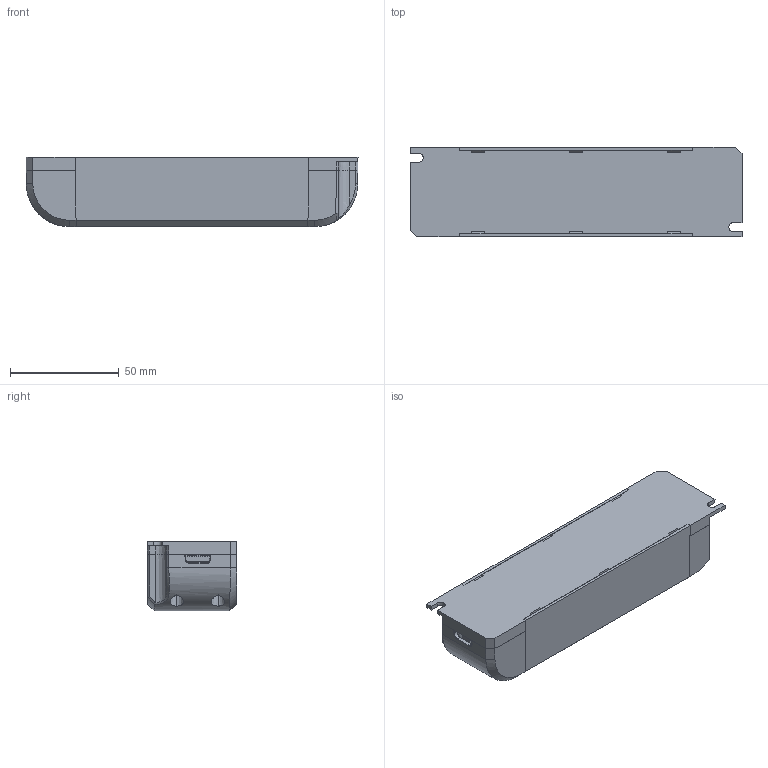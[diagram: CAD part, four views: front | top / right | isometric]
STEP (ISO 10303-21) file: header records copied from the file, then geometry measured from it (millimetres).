
FILE_DESCRIPTION((''),'2;1');
FILE_NAME('ED-S_36W_1200I_V05_ASM','2016-10-31T',('017263'),(''),'CREO PARAMETRIC BY PTC INC, 2014440','CREO PARAMETRIC BY PTC INC, 2014440','');
FILE_SCHEMA(('CONFIG_CONTROL_DESIGN'));
Length unit declared in the file: millimetre
Products named in the file (5): XIA; SHANG; DUAN; ST2_9X8; ED-S_36W_1200I_V05_ASM
Assembly tree (8 placements, depth 2):
  ED-S_36W_1200I_V05_ASM
    XIA
    SHANG
    DUAN  x2
    ST2_9X8  x4
Bounding box: 153 x 41.4 x 32 mm (x, y, z)
Volume: 44922.4 mm3; surface area: 63980.3 mm2
Topology: 8 solids, 8 shells, 1207 faces, 3190 edges, 2010 vertices
Faces by surface type: plane 665, cylinder 228, bspline 204, cone 66, sphere 28, torus 16
Entity records: 32994 total; most frequent: CARTESIAN_POINT 9758, ORIENTED_EDGE 4670, DIRECTION 4098, EDGE_CURVE 2335, VECTOR 1702, LINE 1702, VERTEX_POINT 1506, AXIS2_PLACEMENT_3D 1198
